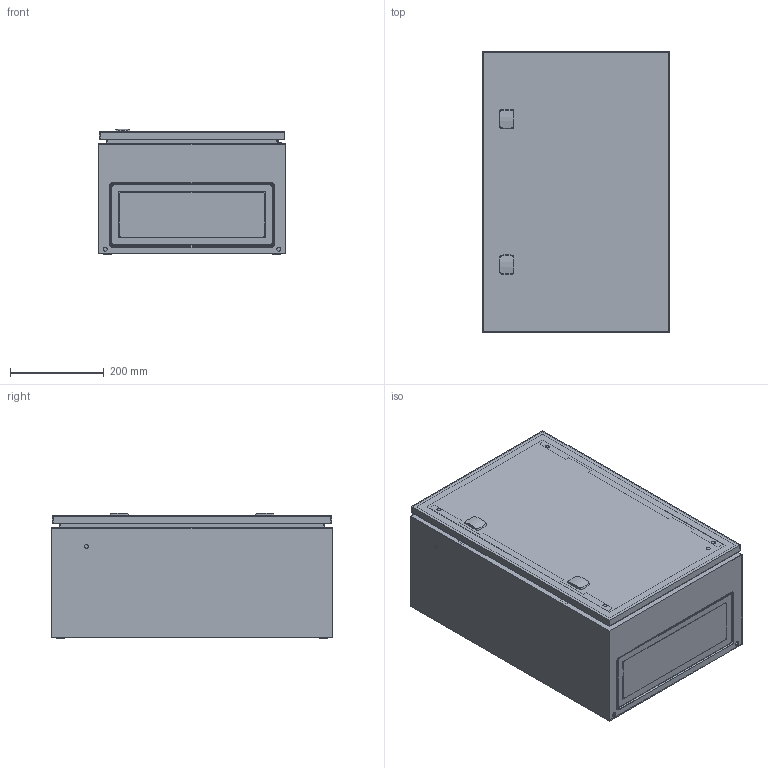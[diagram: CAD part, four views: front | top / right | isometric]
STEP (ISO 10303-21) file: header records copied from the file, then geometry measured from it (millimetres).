
FILE_DESCRIPTION(/* description */ ('STEP AP203'),/* implementation_level */ '2;1');
FILE_NAME(/* name */ 'MAS0604026R5(0)',/* time_stamp */ '2024-03-13T16:38:54+01:00',/* author */ ('License CC BY-ND 4.0'),/* organization */ ('CADENAS'),/* preprocessor_version */ 'ST-DEVELOPER v19.3',/* originating_system */ 'PARTsolutions',/* authorisation */ ' ');
FILE_SCHEMA (('CONFIG_CONTROL_DESIGN'));
Length unit declared in the file: millimetre
Products named in the file (8): MAS0604026R5(0); MAS0604026(0); MMSH06SS(0)_right; ADP06040R5(0); ALL503(0,0); AMP06040_MPL(0); AF02R5_GP(0); AG02_GPG(0)
Assembly tree (9 placements, depth 2):
  MAS0604026R5(0)
    MAS0604026(0)
    MMSH06SS(0)_right  x2
    ADP06040R5(0)
    ALL503(0,0)  x2
    AMP06040_MPL(0)
    AF02R5_GP(0)
    AG02_GPG(0)
Bounding box: 400 x 600 x 267.67 mm (x, y, z)
Volume: 2264439.5 mm3; surface area: 2665363.4 mm2
Topology: 9 solids, 9 shells, 530 faces, 1299 edges, 847 vertices
Faces by surface type: plane 355, cylinder 114, cone 57, torus 4
Full cylindrical faces by diameter (mm): 4.9 x2, 6 x4, 6.5 x2, 7 x4, 8 x7, 8.5 x4, 8.7 x2, 9 x2, 14 x7, 18 x2, 27 x2
Entity records: 13148 total; most frequent: CARTESIAN_POINT 2252, DIRECTION 2108, ORIENTED_EDGE 1970, EDGE_CURVE 985, AXIS2_PLACEMENT_3D 711, VERTEX_POINT 689, LINE 686, VECTOR 686
